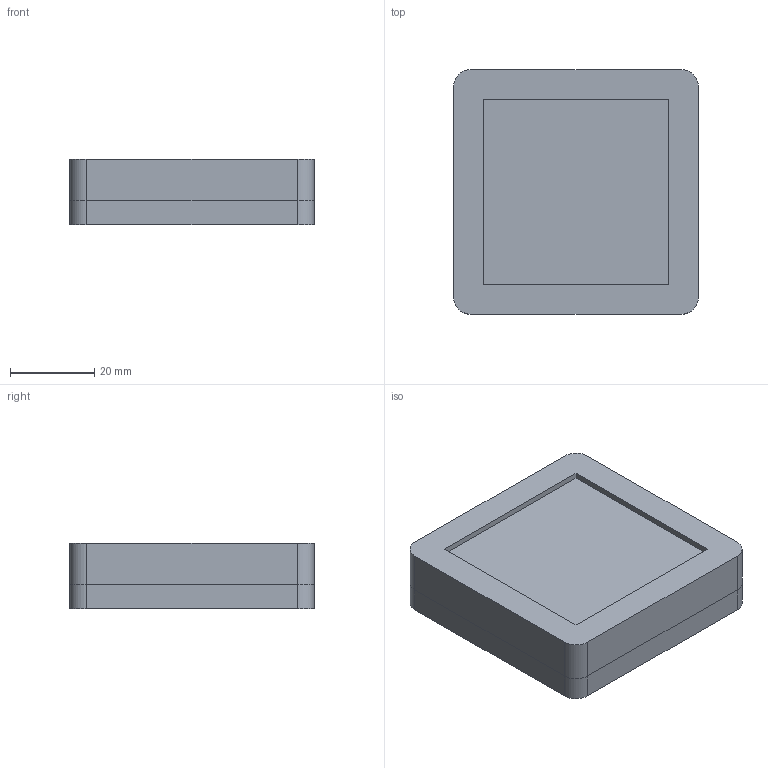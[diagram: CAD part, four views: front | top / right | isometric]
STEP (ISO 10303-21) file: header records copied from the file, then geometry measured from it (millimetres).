
FILE_DESCRIPTION(('FreeCAD Model'),'2;1');
FILE_NAME('Open CASCADE Shape Model','2026-10-03T19:08:42',('Author'),( ''),'Open CASCADE STEP processor 7.8','FreeCAD','Unknown');
FILE_SCHEMA(('AUTOMOTIVE_DESIGN { 1 0 10303 214 1 1 1 1 }'));
Length unit declared in the file: millimetre
Products named in the file (5): DiceBox_StrongLockV2_Lid_50x50x2; DiceBox_StrongLockV2_Base; Lid_Closed_REFERENCE; ClearPanel_50x50x2_REFERENCE; Dice_25_REFERENCE
Assembly tree (4 placements, depth 2):
  DiceBox_StrongLockV2_Lid_50x50x2
    DiceBox_StrongLockV2_Base
    Lid_Closed_REFERENCE
    ClearPanel_50x50x2_REFERENCE
    Dice_25_REFERENCE
Bounding box: 58 x 58 x 15.6 mm (x, y, z)
Volume: 32239.4 mm3; surface area: 30136.4 mm2
Topology: 28 solids, 28 shells, 846 faces, 2008 edges, 1292 vertices
Faces by surface type: bspline 846
Entity records: 22688 total; most frequent: CARTESIAN_POINT 9777, ORIENTED_EDGE 4016, EDGE_CURVE 2008, B_SPLINE_CURVE_WITH_KNOTS 1952, VERTEX_POINT 1292, FACE_BOUND 922, EDGE_LOOP 922, ADVANCED_FACE 846
